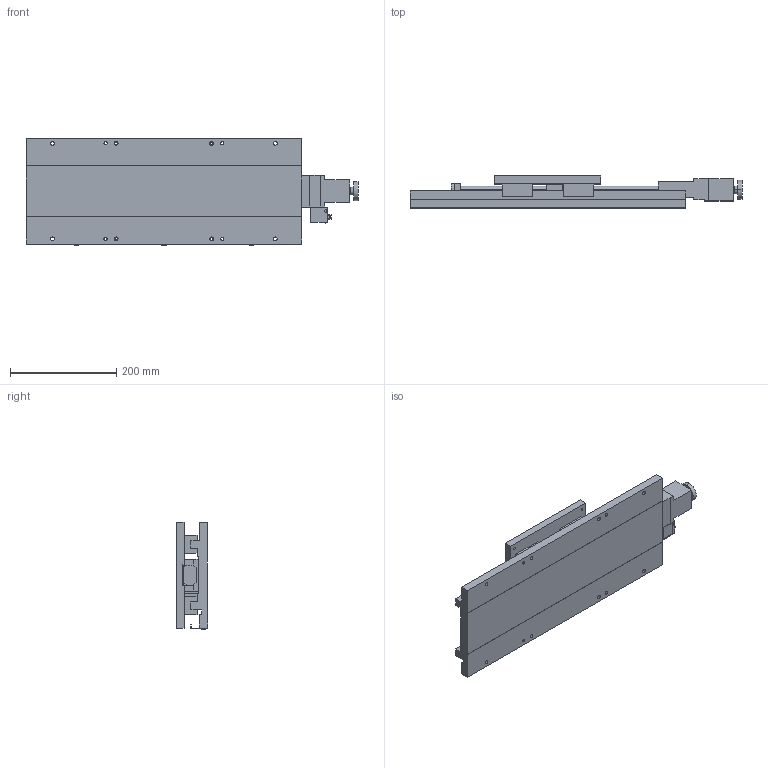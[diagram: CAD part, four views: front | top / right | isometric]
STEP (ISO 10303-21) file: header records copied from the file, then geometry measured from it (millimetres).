
FILE_DESCRIPTION (( 'STEP AP203' ), '1' );
FILE_NAME ('ALS-230-C2P.STEP', '2008-03-07T08:07:05', ( '' ), ( '' ), 'SwSTEP 2.0', 'SolidWorks 2007', '' );
FILE_SCHEMA (( 'CONFIG_CONTROL_DESIGN' ));
Length unit declared in the file: millimetre
Products named in the file (3): ALS-230-C2P; ALS-230-C2P-1_蹬怮椔; ALS-230-C2P-2_蹬怮椔
Assembly tree (2 placements, depth 2):
  ALS-230-C2P
    ALS-230-C2P-2_蹬怮椔
    ALS-230-C2P-1_蹬怮椔
Bounding box: 626 x 60 x 203.4 mm (x, y, z)
Volume: 3085108.6 mm3; surface area: 476744.3 mm2
Topology: 2 solids, 5 shells, 444 faces, 1093 edges, 724 vertices
Faces by surface type: plane 231, cylinder 195, cone 12, bspline 6
Entity records: 14848 total; most frequent: CARTESIAN_POINT 3496, DIRECTION 2379, ORIENTED_EDGE 2186, EDGE_CURVE 1093, AXIS2_PLACEMENT_3D 855, VERTEX_POINT 724, VECTOR 669, LINE 669
